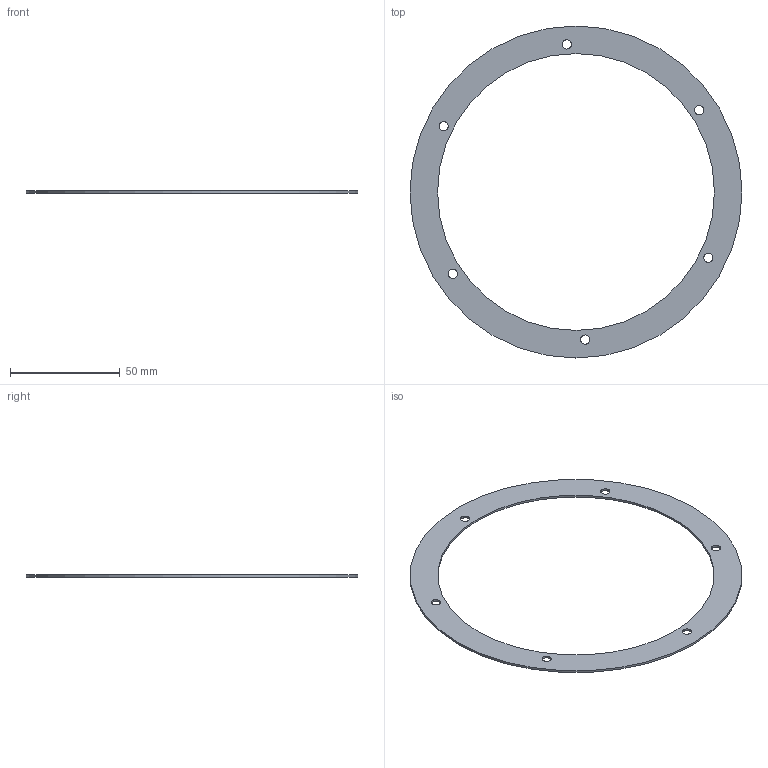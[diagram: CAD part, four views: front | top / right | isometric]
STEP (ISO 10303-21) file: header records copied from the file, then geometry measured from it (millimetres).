
FILE_DESCRIPTION(/* description */ ('STEP AP242 Edition 2','CAx-IF Rec.Pracs.---Representation and Presentation of Product Manufacturing Information (PMI)---4.0---2014-10-13','CAx-IF Rec.Pracs.---3D Tessellated Geometry---0.4---2014-09-14','2;1','CAx-IF Rec.Pracs.---User Defined Attributes---1.5---2016-08-15'),/* implementation_level */ '2;1');
FILE_NAME(/* name */ '693e1f533100820afeb075cf',/* time_stamp */ '2025-12-14T02:22:12Z',/* author */ (''),/* organization */ (''),/* preprocessor_version */ 'ST-DEVELOPER v20',/* originating_system */ 'ONSHAPE BY PTC INC, 1.208',/* authorisation */ ' ');
FILE_SCHEMA (('AP242_MANAGED_MODEL_BASED_3D_ENGINEERING_MIM_LF { 1 0 10303 442 3 1 4 }'));
Length unit declared in the file: metre
Products named in the file (1): Gasket HiVi 5.8
Bounding box: 151.6 x 151.6 x 1 mm (x, y, z)
Volume: 5419.1 mm3; surface area: 11790.6 mm2
Topology: 1 solids, 1 shells, 10 faces, 24 edges, 16 vertices
Faces by surface type: cylinder 8, plane 2
Full cylindrical faces by diameter (mm): 4.2 x6, 126.4 x1, 151.6 x1
Entity records: 314 total; most frequent: DIRECTION 54, CARTESIAN_POINT 43, ORIENTED_EDGE 32, EDGE_LOOP 32, FACE_BOUND 32, AXIS2_PLACEMENT_3D 27, EDGE_CURVE 16, VERTEX_POINT 16
